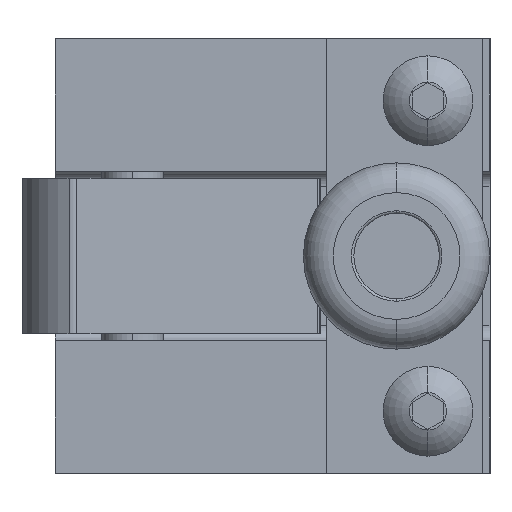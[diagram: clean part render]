
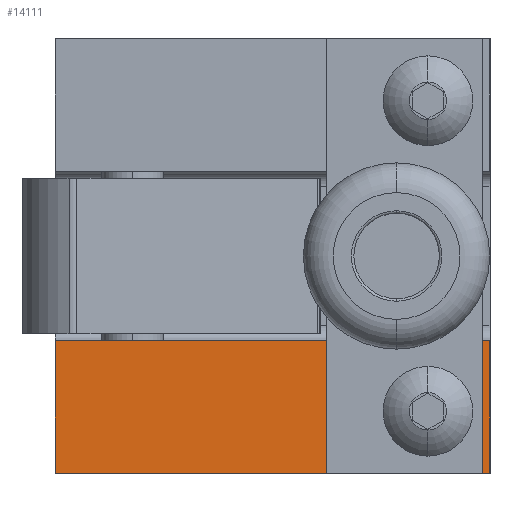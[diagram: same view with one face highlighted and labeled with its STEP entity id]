
A CAD part, left-side view. The second image highlights one B-rep face of the part: STEP entity #14111.
In plain terms, the highlighted planar face has unit normal (-1, 0, 0).
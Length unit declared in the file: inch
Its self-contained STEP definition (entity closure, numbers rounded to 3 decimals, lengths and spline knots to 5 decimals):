
#481 = CARTESIAN_POINT ( 'NONE',  ( 7.4273, 3.84026, -1.59375 ) ) ;
#591 = CARTESIAN_POINT ( 'NONE',  ( 7.4273, 5.34026, -1.215 ) ) ;
#611 = DIRECTION ( 'NONE',  ( 0., 0., 1. ) ) ;
#612 = VECTOR ( 'NONE', #611, 39.37008 ) ;
#613 = CARTESIAN_POINT ( 'NONE',  ( 7.4273, 5.34026, -1.75 ) ) ;
#614 = LINE ( 'NONE', #613, #612 ) ;
#615 = CARTESIAN_POINT ( 'NONE',  ( 7.4273, 3.84026, -1.40625 ) ) ;
#638 = CARTESIAN_POINT ( 'NONE',  ( 7.4273, 5.34026, -1.75 ) ) ;
#641 = CARTESIAN_POINT ( 'NONE',  ( 7.4273, 3.84026, -1.5 ) ) ;
#671 = CIRCLE ( 'NONE', #730, 0.09375 ) ;
#683 = DIRECTION ( 'NONE',  ( -1., 0., 0. ) ) ;
#712 = DIRECTION ( 'NONE',  ( 0., 0., 1. ) ) ;
#730 = AXIS2_PLACEMENT_3D ( 'NONE', #641, #683, #712 ) ;
#1546 = VERTEX_POINT ( 'NONE', #591 ) ;
#1566 = VERTEX_POINT ( 'NONE', #481 ) ;
#1594 = VERTEX_POINT ( 'NONE', #638 ) ;
#1596 = EDGE_CURVE ( 'NONE', #1594, #1546, #614, .T. ) ;
#1598 = VERTEX_POINT ( 'NONE', #615 ) ;
#1605 = EDGE_CURVE ( 'NONE', #1566, #1598, #671, .T. ) ;
#2127 = DIRECTION ( 'NONE',  ( 0., 0., 1. ) ) ;
#2128 = DIRECTION ( 'NONE',  ( -1., 0., 0. ) ) ;
#2129 = CARTESIAN_POINT ( 'NONE',  ( 7.4273, 3.84026, -1.5 ) ) ;
#2130 = AXIS2_PLACEMENT_3D ( 'NONE', #2129, #2128, #2127 ) ;
#2131 = CIRCLE ( 'NONE', #2130, 0.09375 ) ;
#2340 = FACE_BOUND ( 'NONE', #13991, .T. ) ;
#2433 = FACE_OUTER_BOUND ( 'NONE', #14113, .T. ) ;
#2435 = DIRECTION ( 'NONE',  ( 0., 0., 1. ) ) ;
#2436 = DIRECTION ( 'NONE',  ( -1., 0., 0. ) ) ;
#2437 = CARTESIAN_POINT ( 'NONE',  ( 7.4273, 3.59026, -1.75 ) ) ;
#2438 = AXIS2_PLACEMENT_3D ( 'NONE', #2437, #2436, #2435 ) ;
#2439 = PLANE ( 'NONE',  #2438 ) ;
#2590 = DIRECTION ( 'NONE',  ( 0., 0., 1. ) ) ;
#2591 = VECTOR ( 'NONE', #2590, 39.37008 ) ;
#2592 = CARTESIAN_POINT ( 'NONE',  ( 7.4273, 3.59026, -1.75 ) ) ;
#2641 = LINE ( 'NONE', #2592, #2591 ) ;
#2642 = CARTESIAN_POINT ( 'NONE',  ( 7.4273, 3.59026, -1.75 ) ) ;
#2643 = DIRECTION ( 'NONE',  ( 0., -1., 0. ) ) ;
#2644 = VECTOR ( 'NONE', #2643, 39.37008 ) ;
#2645 = CARTESIAN_POINT ( 'NONE',  ( 7.4273, 3.59026, -1.75 ) ) ;
#2657 = LINE ( 'NONE', #2665, #2664 ) ;
#2661 = CARTESIAN_POINT ( 'NONE',  ( 7.4273, 3.59026, -1.215 ) ) ;
#2662 = LINE ( 'NONE', #2645, #2644 ) ;
#2663 = DIRECTION ( 'NONE',  ( 0., -1., 0. ) ) ;
#2664 = VECTOR ( 'NONE', #2663, 39.37008 ) ;
#2665 = CARTESIAN_POINT ( 'NONE',  ( 7.4273, 3.59026, -1.215 ) ) ;
#13991 = EDGE_LOOP ( 'NONE', ( #14007, #14025 ) ) ;
#14007 = ORIENTED_EDGE ( 'NONE', *, *, #14008, .F. ) ;
#14008 = EDGE_CURVE ( 'NONE', #1598, #1566, #2131, .T. ) ;
#14025 = ORIENTED_EDGE ( 'NONE', *, *, #1605, .F. ) ;
#14111 = ADVANCED_FACE ( 'NONE', ( #2340, #2433 ), #2439, .T. ) ;
#14113 = EDGE_LOOP ( 'NONE', ( #14383, #14386, #14387, #14390 ) ) ;
#14383 = ORIENTED_EDGE ( 'NONE', *, *, #14384, .F. ) ;
#14384 = EDGE_CURVE ( 'NONE', #1546, #14385, #2657, .T. ) ;
#14385 = VERTEX_POINT ( 'NONE', #2661 ) ;
#14386 = ORIENTED_EDGE ( 'NONE', *, *, #1596, .F. ) ;
#14387 = ORIENTED_EDGE ( 'NONE', *, *, #14388, .T. ) ;
#14388 = EDGE_CURVE ( 'NONE', #1594, #14389, #2662, .T. ) ;
#14389 = VERTEX_POINT ( 'NONE', #2642 ) ;
#14390 = ORIENTED_EDGE ( 'NONE', *, *, #14395, .T. ) ;
#14395 = EDGE_CURVE ( 'NONE', #14389, #14385, #2641, .T. ) ;
